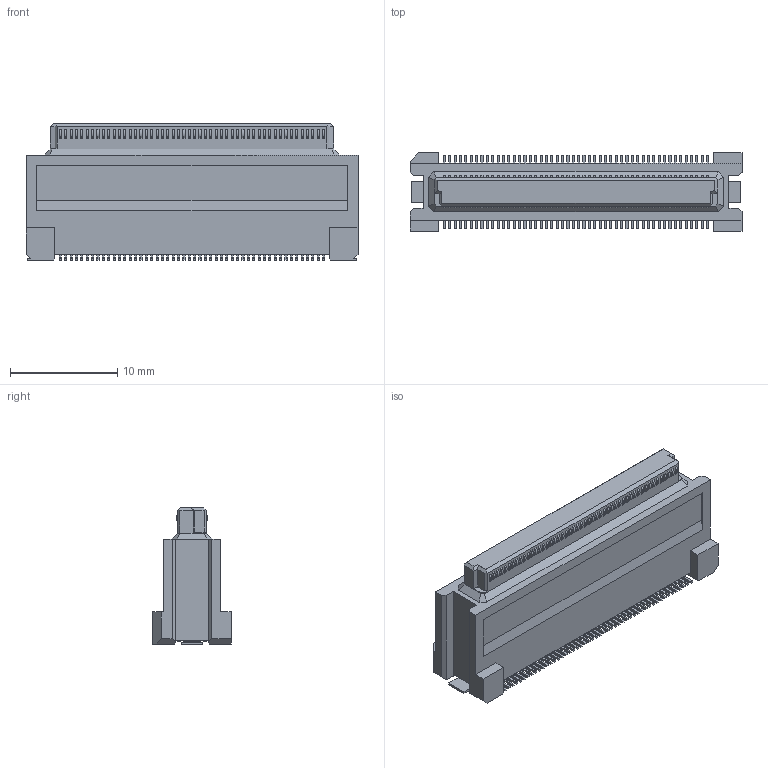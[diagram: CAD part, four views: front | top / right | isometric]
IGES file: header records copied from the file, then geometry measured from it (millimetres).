
Start section: Elysium IGES Interface
Global section: file name: C:\Users\1354\Desktop\P39934_DY10-100FS-4.igs; native system: Creo Elements/Direct Modeling 19.0F  14-Feb-2017; preprocessor: Creo Element/Direct IGES_3D V2.2; author: Unknown; organization: Unknown; date: 20171127.165056; units: millimetre
Bounding box: 30.9 x 7.3 x 12.73 mm (x, y, z)
Volume: 1576.8 mm3; surface area: 1433.5 mm2
Topology: 1 solids, 1 shells, 1450 faces, 3993 edges, 2650 vertices
Faces by surface type: bspline 1450
